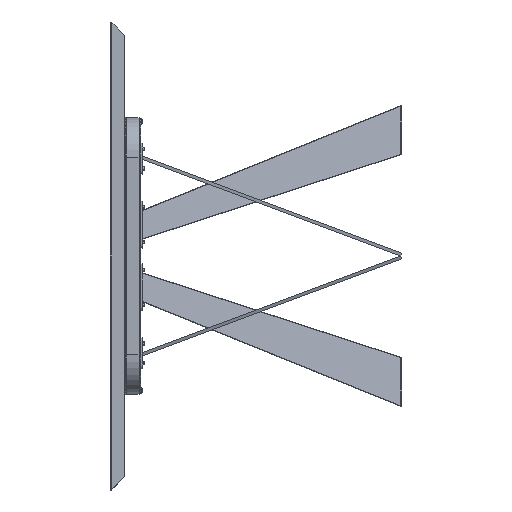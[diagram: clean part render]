
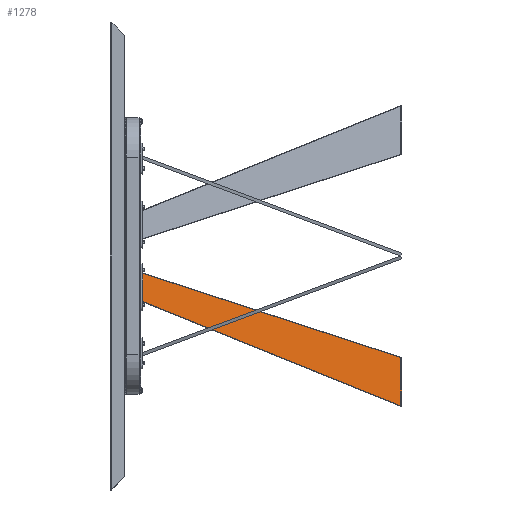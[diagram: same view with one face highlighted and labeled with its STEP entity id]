
A CAD part, left-side view. The second image highlights one B-rep face of the part: STEP entity #1278.
In plain terms, the highlighted planar face has unit normal (-0.937, -0.35, 0) as drawn and (-1, 0, 0) by its records, which use the part's own axes.
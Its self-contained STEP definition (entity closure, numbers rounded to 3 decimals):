
#5 = CARTESIAN_POINT ( 'NONE',  ( -4., 794., 0. ) ) ;
#1109 = PLANE ( 'NONE',  #11073 ) ;
#1278 = ADVANCED_FACE ( 'NONE', ( #4759 ), #1109, .F. ) ;
#2135 = LINE ( 'NONE', #16309, #19155 ) ;
#3006 = DIRECTION ( 'NONE',  ( 1., 0., 0. ) ) ;
#3506 = VERTEX_POINT ( 'NONE', #5 ) ;
#4119 = VERTEX_POINT ( 'NONE', #6774 ) ;
#4278 = CARTESIAN_POINT ( 'NONE',  ( -4., 51.777, 0. ) ) ;
#4303 = VERTEX_POINT ( 'NONE', #11058 ) ;
#4414 = DIRECTION ( 'NONE',  ( 0., 0.292, 0.956 ) ) ;
#4759 = FACE_OUTER_BOUND ( 'NONE', #8410, .T. ) ;
#5779 = CARTESIAN_POINT ( 'NONE',  ( -4., 794., 0. ) ) ;
#6774 = CARTESIAN_POINT ( 'NONE',  ( -4., 73.118, 69.801 ) ) ;
#8267 = CARTESIAN_POINT ( 'NONE',  ( -4., 0., 0. ) ) ;
#8410 = EDGE_LOOP ( 'NONE', ( #15899, #15902, #10119, #11272 ) ) ;
#8482 = LINE ( 'NONE', #21233, #9054 ) ;
#8944 = LINE ( 'NONE', #5779, #20302 ) ;
#9054 = VECTOR ( 'NONE', #15747, 1000. ) ;
#10119 = ORIENTED_EDGE ( 'NONE', *, *, #14521, .F. ) ;
#11058 = CARTESIAN_POINT ( 'NONE',  ( -4., 830.546, 119.538 ) ) ;
#11073 = AXIS2_PLACEMENT_3D ( 'NONE', #8267, #3006, #13898 ) ;
#11154 = VECTOR ( 'NONE', #4414, 1000. ) ;
#11272 = ORIENTED_EDGE ( 'NONE', *, *, #16960, .F. ) ;
#13313 = LINE ( 'NONE', #20453, #11154 ) ;
#13898 = DIRECTION ( 'NONE',  ( 0., 0., -1. ) ) ;
#14521 = EDGE_CURVE ( 'NONE', #4303, #4119, #8482, .T. ) ;
#14705 = EDGE_CURVE ( 'NONE', #21665, #3506, #2135, .T. ) ;
#15747 = DIRECTION ( 'NONE',  ( 0., -0.998, -0.066 ) ) ;
#15899 = ORIENTED_EDGE ( 'NONE', *, *, #14705, .F. ) ;
#15902 = ORIENTED_EDGE ( 'NONE', *, *, #19785, .T. ) ;
#16309 = CARTESIAN_POINT ( 'NONE',  ( -4., 0., 0. ) ) ;
#16960 = EDGE_CURVE ( 'NONE', #3506, #4303, #8944, .T. ) ;
#18170 = DIRECTION ( 'NONE',  ( 0., 1., 0. ) ) ;
#19155 = VECTOR ( 'NONE', #18170, 1000. ) ;
#19785 = EDGE_CURVE ( 'NONE', #21665, #4119, #13313, .T. ) ;
#20302 = VECTOR ( 'NONE', #21924, 1000. ) ;
#20453 = CARTESIAN_POINT ( 'NONE',  ( -4., 47.351, -14.477 ) ) ;
#21233 = CARTESIAN_POINT ( 'NONE',  ( -4., 830.546, 119.538 ) ) ;
#21665 = VERTEX_POINT ( 'NONE', #4278 ) ;
#21924 = DIRECTION ( 'NONE',  ( 0., 0.292, 0.956 ) ) ;
